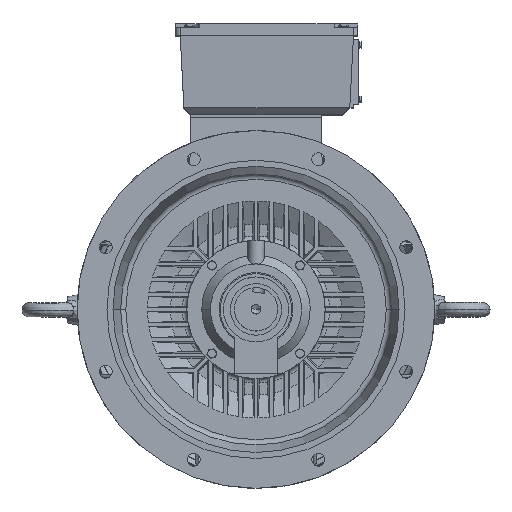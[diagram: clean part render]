
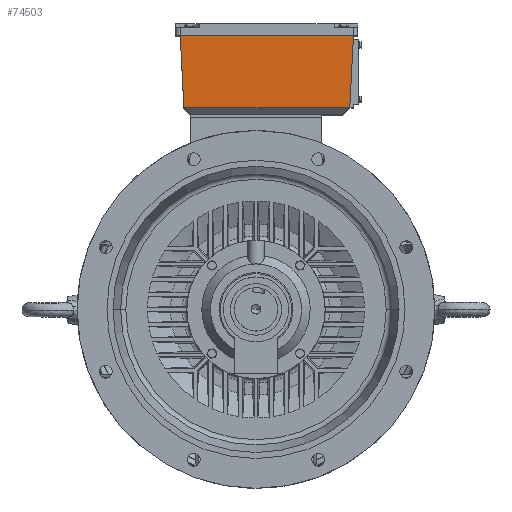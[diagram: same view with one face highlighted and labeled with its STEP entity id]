
A CAD part, top view. The second image highlights one B-rep face of the part: STEP entity #74503.
In plain terms, the highlighted planar face has unit normal (0, -0.051, 0.999) as drawn and (-0.999, 0, -0.051) by its records, which use the part's own axes.
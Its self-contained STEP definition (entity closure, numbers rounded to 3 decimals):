
#31281 = ORIENTED_EDGE ( 'NONE', *, *, #215183, .T. ) ;
#31283 = ORIENTED_EDGE ( 'NONE', *, *, #215094, .T. ) ;
#31285 = ORIENTED_EDGE ( 'NONE', *, *, #215084, .T. ) ;
#31287 = ORIENTED_EDGE ( 'NONE', *, *, #214844, .T. ) ;
#31290 = ORIENTED_EDGE ( 'NONE', *, *, #214877, .F. ) ;
#31294 = ORIENTED_EDGE ( 'NONE', *, *, #214921, .F. ) ;
#57160 = LINE ( 'NONE', #224052, #57169 ) ;
#57169 = VECTOR ( 'NONE', #224057, 1000. ) ;
#57185 = LINE ( 'NONE', #224069, #57192 ) ;
#57192 = VECTOR ( 'NONE', #224102, 1000. ) ;
#57226 = LINE ( 'NONE', #224185, #57235 ) ;
#57235 = VECTOR ( 'NONE', #224192, 1000. ) ;
#57374 = LINE ( 'NONE', #224381, #57389 ) ;
#57386 = LINE ( 'NONE', #224406, #57397 ) ;
#57389 = VECTOR ( 'NONE', #224393, 1000. ) ;
#57397 = VECTOR ( 'NONE', #224398, 1000. ) ;
#57473 = LINE ( 'NONE', #224507, #57476 ) ;
#57476 = VECTOR ( 'NONE', #224509, 1000. ) ;
#74503 = ADVANCED_FACE ( 'NONE', ( #152178 ), #156920, .T. ) ;
#123602 = AXIS2_PLACEMENT_3D ( 'NONE', #156918, #156925, #156926 ) ;
#152178 = FACE_OUTER_BOUND ( 'NONE', #177126, .T. ) ;
#156918 = CARTESIAN_POINT ( 'NONE',  ( -140., -180., 150. ) ) ;
#156920 = PLANE ( 'NONE',  #123602 ) ;
#156925 = DIRECTION ( 'NONE',  ( -0.999, 0., -0.051 ) ) ;
#156926 = DIRECTION ( 'NONE',  ( 0., 1., 0. ) ) ;
#177126 = EDGE_LOOP ( 'NONE', ( #31294, #31290, #31287, #31285, #31283, #31281 ) ) ;
#214844 = EDGE_CURVE ( 'NONE', #328243, #328184, #57160, .T. ) ;
#214877 = EDGE_CURVE ( 'NONE', #328243, #328192, #57185, .T. ) ;
#214921 = EDGE_CURVE ( 'NONE', #328192, #328128, #57226, .T. ) ;
#215084 = EDGE_CURVE ( 'NONE', #328184, #328198, #57374, .T. ) ;
#215094 = EDGE_CURVE ( 'NONE', #328198, #328144, #57386, .T. ) ;
#215183 = EDGE_CURVE ( 'NONE', #328144, #328128, #57473, .T. ) ;
#224052 = CARTESIAN_POINT ( 'NONE',  ( -136.5, 136.5, 81.5 ) ) ;
#224057 = DIRECTION ( 'NONE',  ( 0.051, -0.051, -0.997 ) ) ;
#224069 = CARTESIAN_POINT ( 'NONE',  ( -140., 0., 150. ) ) ;
#224102 = DIRECTION ( 'NONE',  ( 0., -1., 0. ) ) ;
#224185 = CARTESIAN_POINT ( 'NONE',  ( -140., -180., 150. ) ) ;
#224192 = DIRECTION ( 'NONE',  ( 0., -1., 0. ) ) ;
#224381 = CARTESIAN_POINT ( 'NONE',  ( -133., 0., 13. ) ) ;
#224393 = DIRECTION ( 'NONE',  ( 0., -1., 0. ) ) ;
#224398 = DIRECTION ( 'NONE',  ( 0., -1., 0. ) ) ;
#224406 = CARTESIAN_POINT ( 'NONE',  ( -133., 0., 13. ) ) ;
#224507 = CARTESIAN_POINT ( 'NONE',  ( -136.5, -176.5, 81.5 ) ) ;
#224509 = DIRECTION ( 'NONE',  ( -0.051, -0.051, 0.997 ) ) ;
#226089 = CARTESIAN_POINT ( 'NONE',  ( -133., -173., 13. ) ) ;
#226091 = CARTESIAN_POINT ( 'NONE',  ( -140., -180., 150. ) ) ;
#226107 = CARTESIAN_POINT ( 'NONE',  ( -133., 133., 13. ) ) ;
#226111 = CARTESIAN_POINT ( 'NONE',  ( -140., 0., 150. ) ) ;
#226113 = CARTESIAN_POINT ( 'NONE',  ( -133., 0., 13. ) ) ;
#226133 = CARTESIAN_POINT ( 'NONE',  ( -140., 140., 150. ) ) ;
#328128 = VERTEX_POINT ( 'NONE', #226091 ) ;
#328144 = VERTEX_POINT ( 'NONE', #226089 ) ;
#328184 = VERTEX_POINT ( 'NONE', #226107 ) ;
#328192 = VERTEX_POINT ( 'NONE', #226111 ) ;
#328198 = VERTEX_POINT ( 'NONE', #226113 ) ;
#328243 = VERTEX_POINT ( 'NONE', #226133 ) ;
